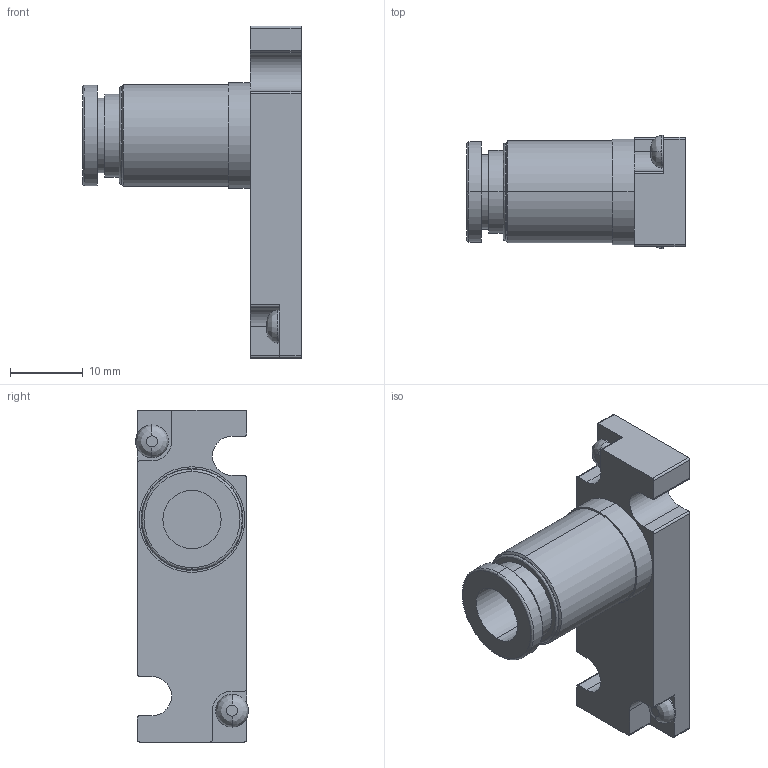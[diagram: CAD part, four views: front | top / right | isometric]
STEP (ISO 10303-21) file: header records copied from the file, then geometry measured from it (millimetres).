
FILE_DESCRIPTION( (''), '2;1');
FILE_NAME ('CVICAD02.6608.F15_Port-FJ6A_22664.stp','2021-07-12T19:18:46',(''),(''),'spGate 12.6.6','','');
FILE_SCHEMA (('AUTOMOTIVE_DESIGN'));
Length unit declared in the file: millimetre
Bounding box: 30 x 15.5 x 45.6 mm (x, y, z)
Volume: 6643.6 mm3; surface area: 3845.7 mm2
Topology: 1 solids, 1 shells, 72 faces, 176 edges, 112 vertices
Faces by surface type: cylinder 34, plane 28, bspline 10
Entity records: 3737 total; most frequent: CARTESIAN_POINT 616, DIRECTION 352, ORIENTED_EDGE 352, COLOUR_RGB 249, PRESENTATION_STYLE_ASSIGNMENT 249, STYLED_ITEM 249, EDGE_CURVE 176, DRAUGHTING_PRE_DEFINED_CURVE_FONT 176
